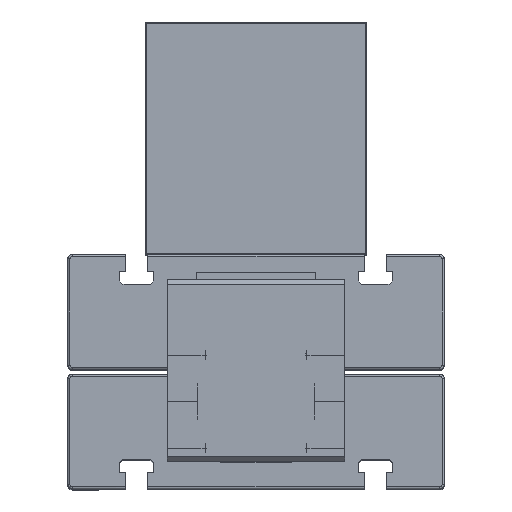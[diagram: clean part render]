
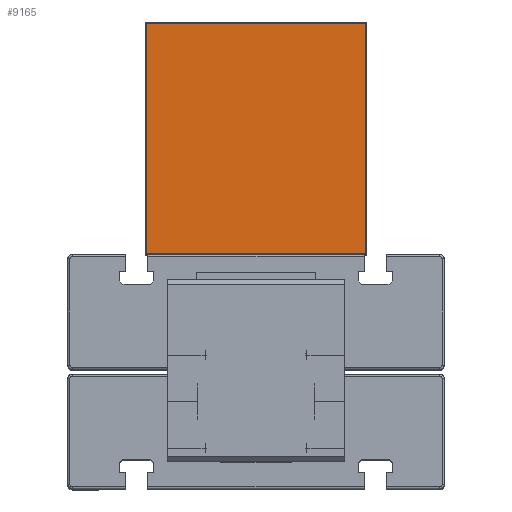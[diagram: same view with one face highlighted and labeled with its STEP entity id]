
A CAD part, top view. The second image highlights one B-rep face of the part: STEP entity #9165.
In plain terms, the highlighted planar face has unit normal (0, 0, 1).
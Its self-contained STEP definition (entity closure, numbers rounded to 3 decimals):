
#190 = VECTOR ( 'NONE', #1334, 1000. ) ;
#263 = FACE_OUTER_BOUND ( 'NONE', #14080, .T. ) ;
#1226 = EDGE_CURVE ( 'NONE', #11083, #14826, #11858, .T. ) ;
#1282 = ORIENTED_EDGE ( 'NONE', *, *, #15713, .T. ) ;
#1334 = DIRECTION ( 'NONE',  ( 0., 1., 0. ) ) ;
#2823 = AXIS2_PLACEMENT_3D ( 'NONE', #6704, #5502, #10678 ) ;
#3121 = ORIENTED_EDGE ( 'NONE', *, *, #1226, .T. ) ;
#3523 = VERTEX_POINT ( 'NONE', #9547 ) ;
#3793 = CARTESIAN_POINT ( 'NONE',  ( 99.5, 104.5, 90. ) ) ;
#4813 = DIRECTION ( 'NONE',  ( 1., 0., 0. ) ) ;
#5502 = DIRECTION ( 'NONE',  ( 0., 0., -1. ) ) ;
#5592 = PLANE ( 'NONE',  #2823 ) ;
#6704 = CARTESIAN_POINT ( 'NONE',  ( 100., 0., 90. ) ) ;
#7931 = CARTESIAN_POINT ( 'NONE',  ( 99.5, 105., 90. ) ) ;
#8456 = ORIENTED_EDGE ( 'NONE', *, *, #12822, .T. ) ;
#8982 = LINE ( 'NONE', #7931, #190 ) ;
#9146 = CARTESIAN_POINT ( 'NONE',  ( 0.5, 0.5, 90. ) ) ;
#9165 = ADVANCED_FACE ( 'NONE', ( #263 ), #5592, .F. ) ;
#9271 = DIRECTION ( 'NONE',  ( -1., 0., 0. ) ) ;
#9547 = CARTESIAN_POINT ( 'NONE',  ( 99.5, 0.5, 90. ) ) ;
#9782 = ORIENTED_EDGE ( 'NONE', *, *, #15774, .T. ) ;
#10361 = LINE ( 'NONE', #11554, #11991 ) ;
#10678 = DIRECTION ( 'NONE',  ( 0., 1., 0. ) ) ;
#11083 = VERTEX_POINT ( 'NONE', #3793 ) ;
#11554 = CARTESIAN_POINT ( 'NONE',  ( 0.5, 0., 90. ) ) ;
#11858 = LINE ( 'NONE', #16900, #11873 ) ;
#11873 = VECTOR ( 'NONE', #9271, 1000. ) ;
#11991 = VECTOR ( 'NONE', #12929, 1000. ) ;
#12380 = VECTOR ( 'NONE', #4813, 1000. ) ;
#12650 = CARTESIAN_POINT ( 'NONE',  ( 0.5, 104.5, 90. ) ) ;
#12822 = EDGE_CURVE ( 'NONE', #16280, #3523, #14978, .T. ) ;
#12929 = DIRECTION ( 'NONE',  ( 0., -1., 0. ) ) ;
#14080 = EDGE_LOOP ( 'NONE', ( #1282, #3121, #9782, #8456 ) ) ;
#14826 = VERTEX_POINT ( 'NONE', #12650 ) ;
#14978 = LINE ( 'NONE', #16585, #12380 ) ;
#15713 = EDGE_CURVE ( 'NONE', #3523, #11083, #8982, .T. ) ;
#15774 = EDGE_CURVE ( 'NONE', #14826, #16280, #10361, .T. ) ;
#16280 = VERTEX_POINT ( 'NONE', #9146 ) ;
#16585 = CARTESIAN_POINT ( 'NONE',  ( 100., 0.5, 90. ) ) ;
#16900 = CARTESIAN_POINT ( 'NONE',  ( 100., 104.5, 90. ) ) ;
